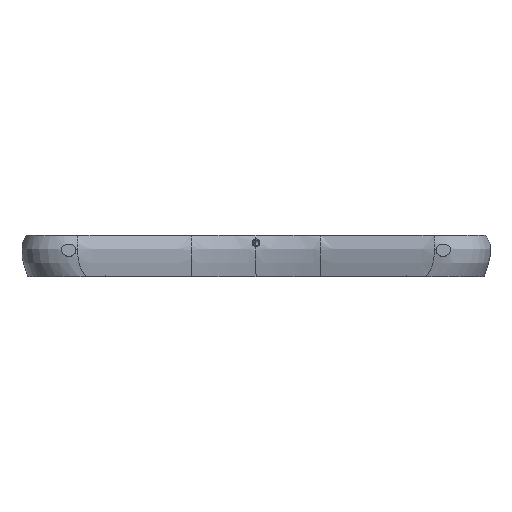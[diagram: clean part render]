
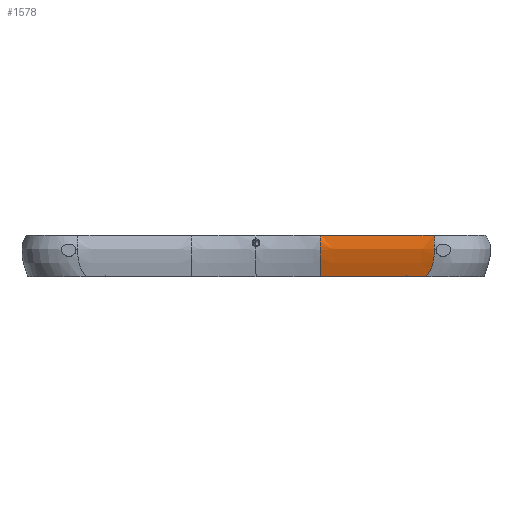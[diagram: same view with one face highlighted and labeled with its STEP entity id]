
A CAD part, front view. The second image highlights one B-rep face of the part: STEP entity #1578.
In plain terms, the highlighted free-form (B-spline) face has degree [9, 3] with [10, 4] control points.
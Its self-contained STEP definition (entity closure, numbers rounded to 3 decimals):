
#1285 = VERTEX_POINT('',#1286);
#1286 = CARTESIAN_POINT('',(65.087,-87.363,0.));
#1293 = EDGE_CURVE('',#1285,#1294,#1296,.T.);
#1294 = VERTEX_POINT('',#1295);
#1295 = CARTESIAN_POINT('',(68.871,-88.099,16.));
#1296 = ( BOUNDED_CURVE() B_SPLINE_CURVE(3,(#1297,#1298,#1299,#1300),
.UNSPECIFIED.,.F.,.F.) B_SPLINE_CURVE_WITH_KNOTS((4,4),(0.,1.),
.PIECEWISE_BEZIER_KNOTS.) CURVE() GEOMETRIC_REPRESENTATION_ITEM() 
RATIONAL_B_SPLINE_CURVE((1.,1.,1.,1.)) REPRESENTATION_ITEM('') );
#1297 = CARTESIAN_POINT('',(65.087,-87.363,0.));
#1298 = CARTESIAN_POINT('',(70.064,-88.909,
    4.62));
#1299 = CARTESIAN_POINT('',(67.904,-91.761,
    11.306));
#1300 = CARTESIAN_POINT('',(68.871,-88.099,16.));
#1578 = ADVANCED_FACE('',(#1579),#1612,.F.);
#1579 = FACE_BOUND('',#1580,.F.);
#1580 = EDGE_LOOP('',(#1581,#1589,#1598,#1611));
#1581 = ORIENTED_EDGE('',*,*,#1582,.T.);
#1582 = EDGE_CURVE('',#1285,#1583,#1585,.T.);
#1583 = VERTEX_POINT('',#1584);
#1584 = CARTESIAN_POINT('',(24.805,-79.533,0.));
#1585 = LINE('',#1586,#1587);
#1586 = CARTESIAN_POINT('',(65.087,-87.363,0.));
#1587 = VECTOR('',#1588,1.);
#1588 = DIRECTION('',(-0.982,0.191,0.));
#1589 = ORIENTED_EDGE('',*,*,#1590,.T.);
#1590 = EDGE_CURVE('',#1583,#1591,#1593,.T.);
#1591 = VERTEX_POINT('',#1592);
#1592 = CARTESIAN_POINT('',(24.805,-79.533,16.));
#1593 = ( BOUNDED_CURVE() B_SPLINE_CURVE(3,(#1594,#1595,#1596,#1597),
.UNSPECIFIED.,.F.,.F.) B_SPLINE_CURVE_WITH_KNOTS((4,4),(0.,1.),
.PIECEWISE_BEZIER_KNOTS.) CURVE() GEOMETRIC_REPRESENTATION_ITEM() 
RATIONAL_B_SPLINE_CURVE((1.,1.,1.,1.)) REPRESENTATION_ITEM('') );
#1594 = CARTESIAN_POINT('',(24.805,-79.533,0.));
#1595 = CARTESIAN_POINT('',(24.805,-80.112,
    4.62));
#1596 = CARTESIAN_POINT('',(24.805,-83.384,
    11.306));
#1597 = CARTESIAN_POINT('',(24.805,-79.533,16.));
#1598 = ORIENTED_EDGE('',*,*,#1599,.F.);
#1599 = EDGE_CURVE('',#1294,#1591,#1600,.T.);
#1600 = B_SPLINE_CURVE_WITH_KNOTS('',9,(#1601,#1602,#1603,#1604,#1605,
    #1606,#1607,#1608,#1609,#1610),.UNSPECIFIED.,.F.,.F.,(10,10),(2.,3.)
  ,.PIECEWISE_BEZIER_KNOTS.);
#1601 = CARTESIAN_POINT('',(68.871,-88.099,16.));
#1602 = CARTESIAN_POINT('',(63.975,-87.147,16.));
#1603 = CARTESIAN_POINT('',(59.078,-86.195,16.));
#1604 = CARTESIAN_POINT('',(54.182,-85.244,16.));
#1605 = CARTESIAN_POINT('',(49.286,-84.292,16.));
#1606 = CARTESIAN_POINT('',(44.39,-83.34,16.));
#1607 = CARTESIAN_POINT('',(39.494,-82.388,16.));
#1608 = CARTESIAN_POINT('',(34.598,-81.437,16.));
#1609 = CARTESIAN_POINT('',(29.701,-80.485,16.));
#1610 = CARTESIAN_POINT('',(24.805,-79.533,16.));
#1611 = ORIENTED_EDGE('',*,*,#1293,.F.);
#1612 = ( BOUNDED_SURFACE() B_SPLINE_SURFACE(9,3,(
    (#1613,#1614,#1615,#1616)
    ,(#1617,#1618,#1619,#1620)
    ,(#1621,#1622,#1623,#1624)
    ,(#1625,#1626,#1627,#1628)
    ,(#1629,#1630,#1631,#1632)
    ,(#1633,#1634,#1635,#1636)
    ,(#1637,#1638,#1639,#1640)
    ,(#1641,#1642,#1643,#1644)
    ,(#1645,#1646,#1647,#1648)
    ,(#1649,#1650,#1651,#1652
)),.UNSPECIFIED.,.F.,.F.,.F.) B_SPLINE_SURFACE_WITH_KNOTS((10,10),(4,4),
  (2.,3.),(0.,1.),.PIECEWISE_BEZIER_KNOTS.) 
GEOMETRIC_REPRESENTATION_ITEM() RATIONAL_B_SPLINE_SURFACE((
    (1.,1.,1.,1.)
    ,(1.,1.,1.,1.)
    ,(1.,1.,1.,1.)
    ,(1.,1.,1.,1.)
    ,(1.,1.,1.,1.)
    ,(1.,1.,1.,1.)
    ,(1.,1.,1.,1.)
    ,(1.,1.,1.,1.)
    ,(1.,1.,1.,1.)
,(1.,1.,1.,1.))) REPRESENTATION_ITEM('') SURFACE() );
#1613 = CARTESIAN_POINT('',(65.087,-87.363,0.));
#1614 = CARTESIAN_POINT('',(70.064,-88.909,
    4.62));
#1615 = CARTESIAN_POINT('',(67.904,-91.761,
    11.306));
#1616 = CARTESIAN_POINT('',(68.871,-88.099,16.));
#1617 = CARTESIAN_POINT('',(60.611,-86.493,0.));
#1618 = CARTESIAN_POINT('',(65.035,-87.932,
    4.62));
#1619 = CARTESIAN_POINT('',(63.116,-90.831,
    11.306));
#1620 = CARTESIAN_POINT('',(63.975,-87.147,16.));
#1621 = CARTESIAN_POINT('',(56.135,-85.623,0.));
#1622 = CARTESIAN_POINT('',(60.007,-86.954,
    4.62));
#1623 = CARTESIAN_POINT('',(58.327,-89.9,
    11.306));
#1624 = CARTESIAN_POINT('',(59.078,-86.195,16.));
#1625 = CARTESIAN_POINT('',(51.66,-84.753,0.));
#1626 = CARTESIAN_POINT('',(54.978,-85.977,
    4.62));
#1627 = CARTESIAN_POINT('',(53.538,-88.969,
    11.306));
#1628 = CARTESIAN_POINT('',(54.182,-85.244,16.));
#1629 = CARTESIAN_POINT('',(47.184,-83.883,0.));
#1630 = CARTESIAN_POINT('',(49.949,-84.999,
    4.62));
#1631 = CARTESIAN_POINT('',(48.749,-88.038,
    11.306));
#1632 = CARTESIAN_POINT('',(49.286,-84.292,16.));
#1633 = CARTESIAN_POINT('',(42.708,-83.013,0.));
#1634 = CARTESIAN_POINT('',(44.92,-84.022,
    4.62));
#1635 = CARTESIAN_POINT('',(43.96,-87.107,
    11.306));
#1636 = CARTESIAN_POINT('',(44.39,-83.34,16.));
#1637 = CARTESIAN_POINT('',(38.232,-82.143,0.));
#1638 = CARTESIAN_POINT('',(39.891,-83.044,
    4.62));
#1639 = CARTESIAN_POINT('',(39.172,-86.176,
    11.306));
#1640 = CARTESIAN_POINT('',(39.494,-82.388,16.));
#1641 = CARTESIAN_POINT('',(33.757,-81.273,0.));
#1642 = CARTESIAN_POINT('',(34.863,-82.067,
    4.62));
#1643 = CARTESIAN_POINT('',(34.383,-85.245,
    11.306));
#1644 = CARTESIAN_POINT('',(34.598,-81.437,16.));
#1645 = CARTESIAN_POINT('',(29.281,-80.403,0.));
#1646 = CARTESIAN_POINT('',(29.834,-81.089,
    4.62));
#1647 = CARTESIAN_POINT('',(29.594,-84.315,
    11.306));
#1648 = CARTESIAN_POINT('',(29.701,-80.485,16.));
#1649 = CARTESIAN_POINT('',(24.805,-79.533,0.));
#1650 = CARTESIAN_POINT('',(24.805,-80.112,
    4.62));
#1651 = CARTESIAN_POINT('',(24.805,-83.384,
    11.306));
#1652 = CARTESIAN_POINT('',(24.805,-79.533,16.));
